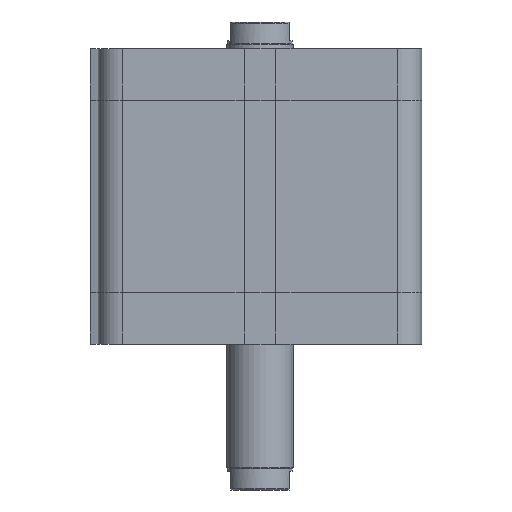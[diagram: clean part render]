
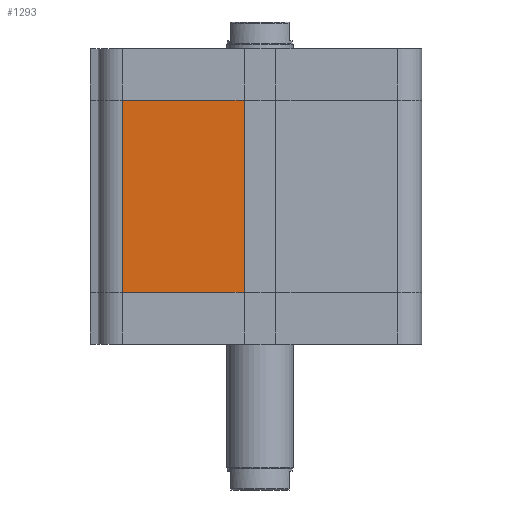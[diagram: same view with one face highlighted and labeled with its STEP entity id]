
A CAD part, left-side view. The second image highlights one B-rep face of the part: STEP entity #1293.
In plain terms, the highlighted planar face has unit normal (-1, 0, 0).
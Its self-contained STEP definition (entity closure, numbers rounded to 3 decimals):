
#1204=CARTESIAN_POINT('',(-61.0,52.,19.5));
#1205=VERTEX_POINT('',#1204);
#1213=CARTESIAN_POINT('',(-61.0,52.,92.0));
#1214=VERTEX_POINT('',#1213);
#1215=CARTESIAN_POINT('',(-61.0,52.,19.5));
#1216=DIRECTION('',(0.0,0.0,1.0));
#1217=VECTOR('',#1216,72.5);
#1218=LINE('',#1215,#1217);
#1219=EDGE_CURVE('',#1205,#1214,#1218,.T.);
#1263=CARTESIAN_POINT('',(-61.,6.,0.0));
#1264=DIRECTION('',(-1.0,0.0,0.0));
#1265=DIRECTION('',(0.0,0.0,1.0));
#1266=AXIS2_PLACEMENT_3D('',#1263,#1264,#1265);
#1267=PLANE('',#1266);
#1268=CARTESIAN_POINT('',(-61.,6.,19.5));
#1269=VERTEX_POINT('',#1268);
#1270=CARTESIAN_POINT('',(-61.0,52.,19.5));
#1271=DIRECTION('',(0.0,-1.0,0.0));
#1272=VECTOR('',#1271,46.);
#1273=LINE('',#1270,#1272);
#1274=EDGE_CURVE('',#1205,#1269,#1273,.T.);
#1275=ORIENTED_EDGE('',*,*,#1274,.T.);
#1276=CARTESIAN_POINT('',(-61.,6.,92.0));
#1277=VERTEX_POINT('',#1276);
#1278=CARTESIAN_POINT('',(-61.,6.,19.5));
#1279=DIRECTION('',(0.0,0.0,1.0));
#1280=VECTOR('',#1279,72.5);
#1281=LINE('',#1278,#1280);
#1282=EDGE_CURVE('',#1269,#1277,#1281,.T.);
#1283=ORIENTED_EDGE('',*,*,#1282,.T.);
#1284=CARTESIAN_POINT('',(-61.0,52.,92.0));
#1285=DIRECTION('',(0.0,-1.0,0.0));
#1286=VECTOR('',#1285,46.);
#1287=LINE('',#1284,#1286);
#1288=EDGE_CURVE('',#1214,#1277,#1287,.T.);
#1289=ORIENTED_EDGE('',*,*,#1288,.F.);
#1290=ORIENTED_EDGE('',*,*,#1219,.F.);
#1291=EDGE_LOOP('',(#1275,#1283,#1289,#1290));
#1292=FACE_OUTER_BOUND('',#1291,.T.);
#1293=ADVANCED_FACE('',(#1292),#1267,.T.);
